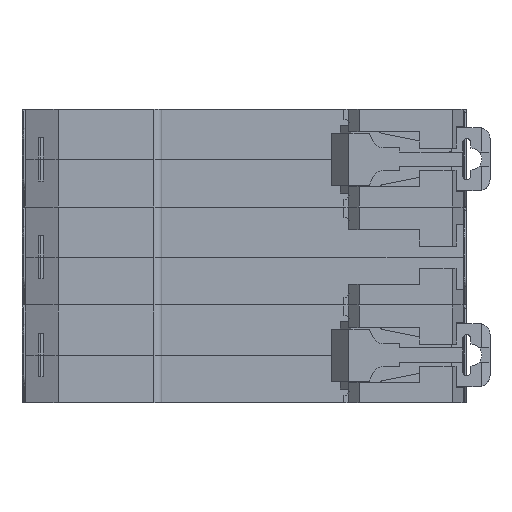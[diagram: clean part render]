
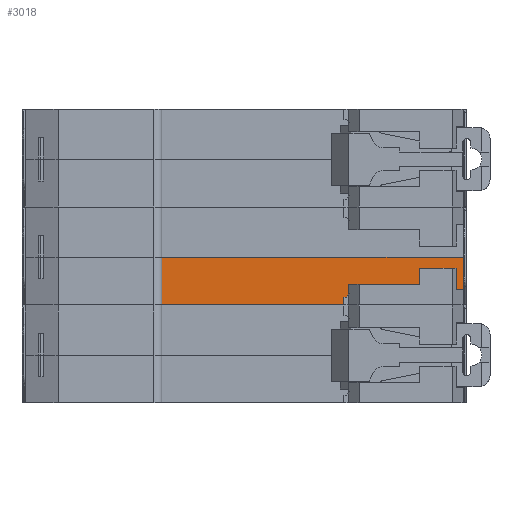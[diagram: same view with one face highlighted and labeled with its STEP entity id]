
A CAD part, front view. The second image highlights one B-rep face of the part: STEP entity #3018.
In plain terms, the highlighted planar face has unit normal (0, -1, 0).
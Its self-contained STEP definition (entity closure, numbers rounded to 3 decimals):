
#286 = EDGE_CURVE ( 'NONE', #58783, #50173, #46748, .T. ) ;
#1325 = CARTESIAN_POINT ( 'NONE',  ( 25.7, -55., -6.3 ) ) ;
#1875 = VECTOR ( 'NONE', #25613, 1000. ) ;
#1909 = EDGE_CURVE ( 'NONE', #29858, #21720, #20983, .T. ) ;
#2200 = VECTOR ( 'NONE', #30637, 1000. ) ;
#2617 = EDGE_CURVE ( 'NONE', #14642, #29858, #33081, .T. ) ;
#3018 = ADVANCED_FACE ( 'NONE', ( #42996 ), #50278, .T. ) ;
#3313 = CARTESIAN_POINT ( 'NONE',  ( -13.5, -55., -8.75 ) ) ;
#3790 = LINE ( 'NONE', #57513, #27553 ) ;
#4109 = EDGE_CURVE ( 'NONE', #21720, #16409, #40017, .T. ) ;
#4268 = CARTESIAN_POINT ( 'NONE',  ( 25.7, -55., -6.8 ) ) ;
#4554 = ORIENTED_EDGE ( 'NONE', *, *, #59154, .T. ) ;
#4716 = CARTESIAN_POINT ( 'NONE',  ( -13.5, -55., 103.394 ) ) ;
#4727 = VECTOR ( 'NONE', #18558, 1000. ) ;
#4834 = VECTOR ( 'NONE', #49744, 1000. ) ;
#4919 = DIRECTION ( 'NONE',  ( 0., -1., 0. ) ) ;
#4992 = EDGE_CURVE ( 'NONE', #38327, #43589, #25498, .T. ) ;
#5572 = LINE ( 'NONE', #44958, #12074 ) ;
#5689 = VERTEX_POINT ( 'NONE', #27216 ) ;
#5887 = ORIENTED_EDGE ( 'NONE', *, *, #28824, .F. ) ;
#8120 = CARTESIAN_POINT ( 'NONE',  ( 26.5, -55., -7.3 ) ) ;
#8784 = EDGE_CURVE ( 'NONE', #43589, #33359, #37041, .T. ) ;
#9106 = CARTESIAN_POINT ( 'NONE',  ( -13.5, -55., 0. ) ) ;
#9698 = LINE ( 'NONE', #43491, #47001 ) ;
#9737 = ORIENTED_EDGE ( 'NONE', *, *, #2617, .F. ) ;
#11882 = DIRECTION ( 'NONE',  ( 0., 0., -1. ) ) ;
#12074 = VECTOR ( 'NONE', #26881, 1000. ) ;
#12509 = ORIENTED_EDGE ( 'NONE', *, *, #25301, .F. ) ;
#12663 = CARTESIAN_POINT ( 'NONE',  ( -13.5, -55., -8.75 ) ) ;
#13041 = CARTESIAN_POINT ( 'NONE',  ( 22.7, -55., -7.3 ) ) ;
#13887 = DIRECTION ( 'NONE',  ( 0., 0., 1. ) ) ;
#14230 = ORIENTED_EDGE ( 'NONE', *, *, #39930, .F. ) ;
#14642 = VERTEX_POINT ( 'NONE', #4268 ) ;
#14691 = ORIENTED_EDGE ( 'NONE', *, *, #4109, .F. ) ;
#14721 = CARTESIAN_POINT ( 'NONE',  ( 22.2, -55., -7.3 ) ) ;
#15129 = VECTOR ( 'NONE', #29994, 1000. ) ;
#16021 = DIRECTION ( 'NONE',  ( -1., 0., 0. ) ) ;
#16409 = VERTEX_POINT ( 'NONE', #18556 ) ;
#17022 = LINE ( 'NONE', #43444, #1875 ) ;
#17784 = VERTEX_POINT ( 'NONE', #9106 ) ;
#18556 = CARTESIAN_POINT ( 'NONE',  ( 22.7, -55., -7.3 ) ) ;
#18558 = DIRECTION ( 'NONE',  ( -0.959, 0., -0.284 ) ) ;
#18791 = LINE ( 'NONE', #3313, #2200 ) ;
#20983 = LINE ( 'NONE', #40212, #56192 ) ;
#21720 = VERTEX_POINT ( 'NONE', #24189 ) ;
#24189 = CARTESIAN_POINT ( 'NONE',  ( 23.5, -55., -6.3 ) ) ;
#24354 = VECTOR ( 'NONE', #11882, 1000. ) ;
#25246 = VECTOR ( 'NONE', #30103, 1000. ) ;
#25301 = EDGE_CURVE ( 'NONE', #5689, #50222, #18791, .T. ) ;
#25498 = LINE ( 'NONE', #33613, #51353 ) ;
#25613 = DIRECTION ( 'NONE',  ( 0., 0., -1. ) ) ;
#25906 = CARTESIAN_POINT ( 'NONE',  ( 44., -55., -6. ) ) ;
#26323 = ORIENTED_EDGE ( 'NONE', *, *, #35800, .F. ) ;
#26366 = EDGE_CURVE ( 'NONE', #27341, #38327, #5572, .T. ) ;
#26881 = DIRECTION ( 'NONE',  ( -0.887, 0., -0.461 ) ) ;
#27216 = CARTESIAN_POINT ( 'NONE',  ( 22.2, -55., -8.75 ) ) ;
#27341 = VERTEX_POINT ( 'NONE', #43608 ) ;
#27553 = VECTOR ( 'NONE', #34388, 1000. ) ;
#28824 = EDGE_CURVE ( 'NONE', #33359, #14642, #38326, .T. ) ;
#29858 = VERTEX_POINT ( 'NONE', #1325 ) ;
#29909 = CARTESIAN_POINT ( 'NONE',  ( 44., -55., 103.394 ) ) ;
#29994 = DIRECTION ( 'NONE',  ( 1., 0., 0. ) ) ;
#30103 = DIRECTION ( 'NONE',  ( 0., 0., -1. ) ) ;
#30637 = DIRECTION ( 'NONE',  ( -1., 0., 0. ) ) ;
#31602 = VECTOR ( 'NONE', #13887, 1000. ) ;
#32243 = ORIENTED_EDGE ( 'NONE', *, *, #47952, .F. ) ;
#32469 = ORIENTED_EDGE ( 'NONE', *, *, #1909, .F. ) ;
#32824 = AXIS2_PLACEMENT_3D ( 'NONE', #4716, #4919, #41035 ) ;
#33081 = LINE ( 'NONE', #59064, #31602 ) ;
#33359 = VERTEX_POINT ( 'NONE', #56653 ) ;
#33613 = CARTESIAN_POINT ( 'NONE',  ( 29.2, -55., -6.5 ) ) ;
#34388 = DIRECTION ( 'NONE',  ( -1., 0., 0. ) ) ;
#34502 = CARTESIAN_POINT ( 'NONE',  ( 22.2, -55., 103.394 ) ) ;
#35800 = EDGE_CURVE ( 'NONE', #16409, #37633, #9698, .T. ) ;
#37041 = LINE ( 'NONE', #8120, #4727 ) ;
#37605 = DIRECTION ( 'NONE',  ( -0.952, 0., 0.305 ) ) ;
#37633 = VERTEX_POINT ( 'NONE', #14721 ) ;
#38326 = LINE ( 'NONE', #51493, #46983 ) ;
#38327 = VERTEX_POINT ( 'NONE', #52573 ) ;
#39930 = EDGE_CURVE ( 'NONE', #50173, #27341, #3790, .T. ) ;
#40017 = LINE ( 'NONE', #13041, #4834 ) ;
#40212 = CARTESIAN_POINT ( 'NONE',  ( 23.5, -55., -6.3 ) ) ;
#41035 = DIRECTION ( 'NONE',  ( 0., 0., -1. ) ) ;
#41917 = ORIENTED_EDGE ( 'NONE', *, *, #4992, .F. ) ;
#42996 = FACE_OUTER_BOUND ( 'NONE', #59050, .T. ) ;
#43070 = LINE ( 'NONE', #57495, #15129 ) ;
#43444 = CARTESIAN_POINT ( 'NONE',  ( -13.5, -55., 103.394 ) ) ;
#43491 = CARTESIAN_POINT ( 'NONE',  ( 22.2, -55., -7.3 ) ) ;
#43589 = VERTEX_POINT ( 'NONE', #55044 ) ;
#43608 = CARTESIAN_POINT ( 'NONE',  ( 34.2, -55., -6. ) ) ;
#43723 = LINE ( 'NONE', #34502, #24354 ) ;
#44958 = CARTESIAN_POINT ( 'NONE',  ( 31.7, -55., -7.3 ) ) ;
#46748 = LINE ( 'NONE', #29909, #25246 ) ;
#46983 = VECTOR ( 'NONE', #56128, 1000. ) ;
#47001 = VECTOR ( 'NONE', #16021, 1000. ) ;
#47952 = EDGE_CURVE ( 'NONE', #37633, #5689, #43723, .T. ) ;
#49744 = DIRECTION ( 'NONE',  ( -0.625, 0., -0.781 ) ) ;
#49889 = ORIENTED_EDGE ( 'NONE', *, *, #8784, .F. ) ;
#50173 = VERTEX_POINT ( 'NONE', #25906 ) ;
#50222 = VERTEX_POINT ( 'NONE', #12663 ) ;
#50278 = PLANE ( 'NONE',  #32824 ) ;
#50290 = CARTESIAN_POINT ( 'NONE',  ( 44., -55., 0. ) ) ;
#50550 = ORIENTED_EDGE ( 'NONE', *, *, #26366, .F. ) ;
#51353 = VECTOR ( 'NONE', #37605, 1000. ) ;
#51493 = CARTESIAN_POINT ( 'NONE',  ( 25.7, -55., -6.8 ) ) ;
#52136 = ORIENTED_EDGE ( 'NONE', *, *, #54097, .F. ) ;
#52573 = CARTESIAN_POINT ( 'NONE',  ( 31.7, -55., -7.3 ) ) ;
#54097 = EDGE_CURVE ( 'NONE', #17784, #58783, #43070, .T. ) ;
#55044 = CARTESIAN_POINT ( 'NONE',  ( 29.2, -55., -6.5 ) ) ;
#56128 = DIRECTION ( 'NONE',  ( -0.848, 0., 0.53 ) ) ;
#56192 = VECTOR ( 'NONE', #57951, 1000. ) ;
#56653 = CARTESIAN_POINT ( 'NONE',  ( 26.5, -55., -7.3 ) ) ;
#57495 = CARTESIAN_POINT ( 'NONE',  ( 29., -55., 0. ) ) ;
#57513 = CARTESIAN_POINT ( 'NONE',  ( 34.2, -55., -6. ) ) ;
#57951 = DIRECTION ( 'NONE',  ( -1., 0., 0. ) ) ;
#58783 = VERTEX_POINT ( 'NONE', #50290 ) ;
#59050 = EDGE_LOOP ( 'NONE', ( #50550, #14230, #59306, #52136, #4554, #12509, #32243, #26323, #14691, #32469, #9737, #5887, #49889, #41917 ) ) ;
#59064 = CARTESIAN_POINT ( 'NONE',  ( 25.7, -55., -6.3 ) ) ;
#59154 = EDGE_CURVE ( 'NONE', #17784, #50222, #17022, .T. ) ;
#59306 = ORIENTED_EDGE ( 'NONE', *, *, #286, .F. ) ;
